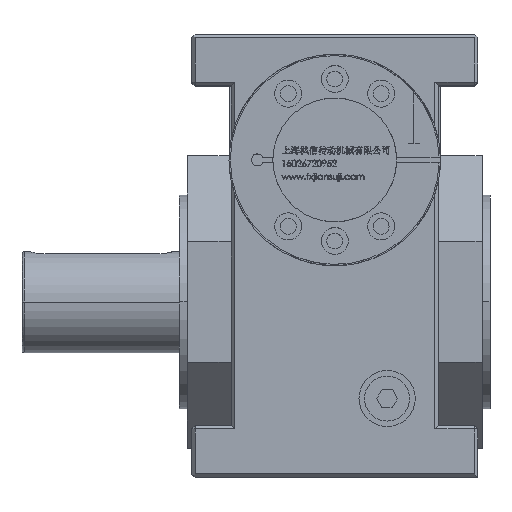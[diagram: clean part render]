
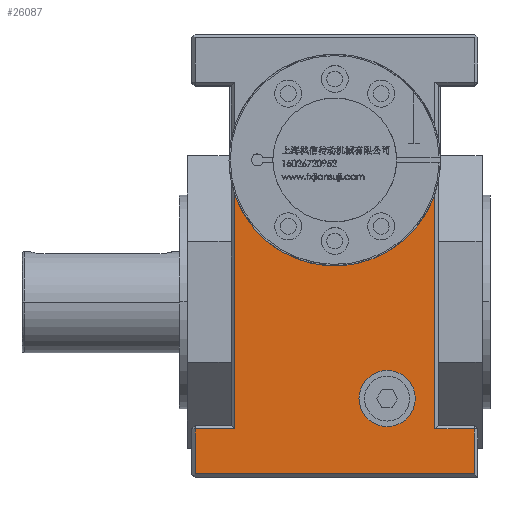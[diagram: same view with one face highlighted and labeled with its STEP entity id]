
A CAD part, top view. The second image highlights one B-rep face of the part: STEP entity #26087.
In plain terms, the highlighted planar face has unit normal (0, 0, 1).
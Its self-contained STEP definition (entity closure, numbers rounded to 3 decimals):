
#1434 = ORIENTED_EDGE ( 'NONE', *, *, #2535, .T. ) ;
#1624 = VECTOR ( 'NONE', #29150, 1000. ) ;
#1685 = DIRECTION ( 'NONE',  ( 1., 0., 0. ) ) ;
#2535 = EDGE_CURVE ( 'NONE', #44914, #75337, #78047, .T. ) ;
#3834 = DIRECTION ( 'NONE',  ( 0., 0., -1. ) ) ;
#3908 = DIRECTION ( 'NONE',  ( 0., 0., 1. ) ) ;
#4485 = ORIENTED_EDGE ( 'NONE', *, *, #9734, .F. ) ;
#5383 = PLANE ( 'NONE',  #49930 ) ;
#5501 = DIRECTION ( 'NONE',  ( 0., 0., 1. ) ) ;
#7159 = CARTESIAN_POINT ( 'NONE',  ( -62., 119., 83. ) ) ;
#8874 = VERTEX_POINT ( 'NONE', #27969 ) ;
#9734 = EDGE_CURVE ( 'NONE', #73474, #28852, #20805, .T. ) ;
#10069 = CARTESIAN_POINT ( 'NONE',  ( -44.5, 47.876, 83. ) ) ;
#10529 = CARTESIAN_POINT ( 'NONE',  ( 62., -55., 83. ) ) ;
#10690 = VERTEX_POINT ( 'NONE', #24881 ) ;
#10874 = VERTEX_POINT ( 'NONE', #61740 ) ;
#11101 = ORIENTED_EDGE ( 'NONE', *, *, #46973, .T. ) ;
#11359 = ORIENTED_EDGE ( 'NONE', *, *, #45491, .F. ) ;
#13341 = CARTESIAN_POINT ( 'NONE',  ( 44.5, 47.876, 83. ) ) ;
#14574 = EDGE_LOOP ( 'NONE', ( #11101, #28935, #34745, #17377, #17870, #1434, #54353, #46373 ) ) ;
#16377 = CARTESIAN_POINT ( 'NONE',  ( 10.762, -43., 83. ) ) ;
#17377 = ORIENTED_EDGE ( 'NONE', *, *, #24051, .T. ) ;
#17661 = DIRECTION ( 'NONE',  ( -1., 0., 0. ) ) ;
#17870 = ORIENTED_EDGE ( 'NONE', *, *, #68381, .F. ) ;
#18053 = CARTESIAN_POINT ( 'NONE',  ( 63.5, -56.5, 83. ) ) ;
#18636 = DIRECTION ( 'NONE',  ( 0., -1., 0. ) ) ;
#19421 = DIRECTION ( 'NONE',  ( 0., 0., 1. ) ) ;
#20144 = CIRCLE ( 'NONE', #60655, 47. ) ;
#20805 = CIRCLE ( 'NONE', #41052, 12.5 ) ;
#21348 = VECTOR ( 'NONE', #35809, 1000. ) ;
#21429 = VERTEX_POINT ( 'NONE', #37352 ) ;
#24051 = EDGE_CURVE ( 'NONE', #67596, #59042, #74063, .T. ) ;
#24881 = CARTESIAN_POINT ( 'NONE',  ( 62., -76.5, 83. ) ) ;
#26087 = ADVANCED_FACE ( 'NONE', ( #53339, #65629 ), #5383, .F. ) ;
#27969 = CARTESIAN_POINT ( 'NONE',  ( -62., -76.5, 83. ) ) ;
#28005 = DIRECTION ( 'NONE',  ( 0., 1., 0. ) ) ;
#28852 = VERTEX_POINT ( 'NONE', #16377 ) ;
#28935 = ORIENTED_EDGE ( 'NONE', *, *, #32596, .T. ) ;
#29150 = DIRECTION ( 'NONE',  ( 0., 1., 0. ) ) ;
#29676 = DIRECTION ( 'NONE',  ( 0., 1., 0. ) ) ;
#31807 = LINE ( 'NONE', #55975, #53892 ) ;
#32442 = VECTOR ( 'NONE', #47945, 1000. ) ;
#32596 = EDGE_CURVE ( 'NONE', #10690, #21429, #71523, .T. ) ;
#34041 = CARTESIAN_POINT ( 'NONE',  ( 23.262, -43., 83. ) ) ;
#34745 = ORIENTED_EDGE ( 'NONE', *, *, #37954, .T. ) ;
#35809 = DIRECTION ( 'NONE',  ( -1., 0., 0. ) ) ;
#35877 = CARTESIAN_POINT ( 'NONE',  ( 35.762, -43., 83. ) ) ;
#36038 = CARTESIAN_POINT ( 'NONE',  ( -44.5, -55., 83. ) ) ;
#37158 = EDGE_LOOP ( 'NONE', ( #4485, #11359 ) ) ;
#37352 = CARTESIAN_POINT ( 'NONE',  ( 62., -56.5, 83. ) ) ;
#37954 = EDGE_CURVE ( 'NONE', #21429, #67596, #42640, .T. ) ;
#40744 = DIRECTION ( 'NONE',  ( 1., 0., 0. ) ) ;
#41052 = AXIS2_PLACEMENT_3D ( 'NONE', #34041, #3908, #40744 ) ;
#42146 = LINE ( 'NONE', #48096, #21348 ) ;
#42640 = LINE ( 'NONE', #18053, #62472 ) ;
#43584 = CARTESIAN_POINT ( 'NONE',  ( -44.5, -56.5, 83. ) ) ;
#43610 = DIRECTION ( 'NONE',  ( 1., 0., 0. ) ) ;
#44914 = VERTEX_POINT ( 'NONE', #10069 ) ;
#45491 = EDGE_CURVE ( 'NONE', #28852, #73474, #71463, .T. ) ;
#46373 = ORIENTED_EDGE ( 'NONE', *, *, #60888, .T. ) ;
#46973 = EDGE_CURVE ( 'NONE', #8874, #10690, #31807, .T. ) ;
#47945 = DIRECTION ( 'NONE',  ( 0., -1., 0. ) ) ;
#47989 = LINE ( 'NONE', #7159, #49137 ) ;
#48096 = CARTESIAN_POINT ( 'NONE',  ( -63.5, -56.5, 83. ) ) ;
#49137 = VECTOR ( 'NONE', #18636, 1000. ) ;
#49551 = CARTESIAN_POINT ( 'NONE',  ( 23.262, -43., 83. ) ) ;
#49930 = AXIS2_PLACEMENT_3D ( 'NONE', #75946, #3834, #28005 ) ;
#52527 = AXIS2_PLACEMENT_3D ( 'NONE', #49551, #19421, #43610 ) ;
#53339 = FACE_OUTER_BOUND ( 'NONE', #14574, .T. ) ;
#53892 = VECTOR ( 'NONE', #1685, 1000. ) ;
#54353 = ORIENTED_EDGE ( 'NONE', *, *, #61857, .T. ) ;
#55975 = CARTESIAN_POINT ( 'NONE',  ( 63.5, -76.5, 83. ) ) ;
#57384 = VECTOR ( 'NONE', #57785, 1000. ) ;
#57785 = DIRECTION ( 'NONE',  ( 0., 1., 0. ) ) ;
#59042 = VERTEX_POINT ( 'NONE', #13341 ) ;
#60190 = CARTESIAN_POINT ( 'NONE',  ( 0., 63., 83. ) ) ;
#60655 = AXIS2_PLACEMENT_3D ( 'NONE', #60190, #5501, #29676 ) ;
#60888 = EDGE_CURVE ( 'NONE', #10874, #8874, #47989, .T. ) ;
#61740 = CARTESIAN_POINT ( 'NONE',  ( -62., -56.5, 83. ) ) ;
#61857 = EDGE_CURVE ( 'NONE', #75337, #10874, #42146, .T. ) ;
#62472 = VECTOR ( 'NONE', #17661, 1000. ) ;
#64529 = CARTESIAN_POINT ( 'NONE',  ( 44.5, 53.356, 83. ) ) ;
#65629 = FACE_BOUND ( 'NONE', #37158, .T. ) ;
#67596 = VERTEX_POINT ( 'NONE', #75476 ) ;
#68381 = EDGE_CURVE ( 'NONE', #44914, #59042, #20144, .T. ) ;
#71463 = CIRCLE ( 'NONE', #52527, 12.5 ) ;
#71523 = LINE ( 'NONE', #10529, #1624 ) ;
#73474 = VERTEX_POINT ( 'NONE', #35877 ) ;
#74063 = LINE ( 'NONE', #64529, #57384 ) ;
#75337 = VERTEX_POINT ( 'NONE', #43584 ) ;
#75476 = CARTESIAN_POINT ( 'NONE',  ( 44.5, -56.5, 83. ) ) ;
#75946 = CARTESIAN_POINT ( 'NONE',  ( 63.5, 119., 83. ) ) ;
#78047 = LINE ( 'NONE', #36038, #32442 ) ;
